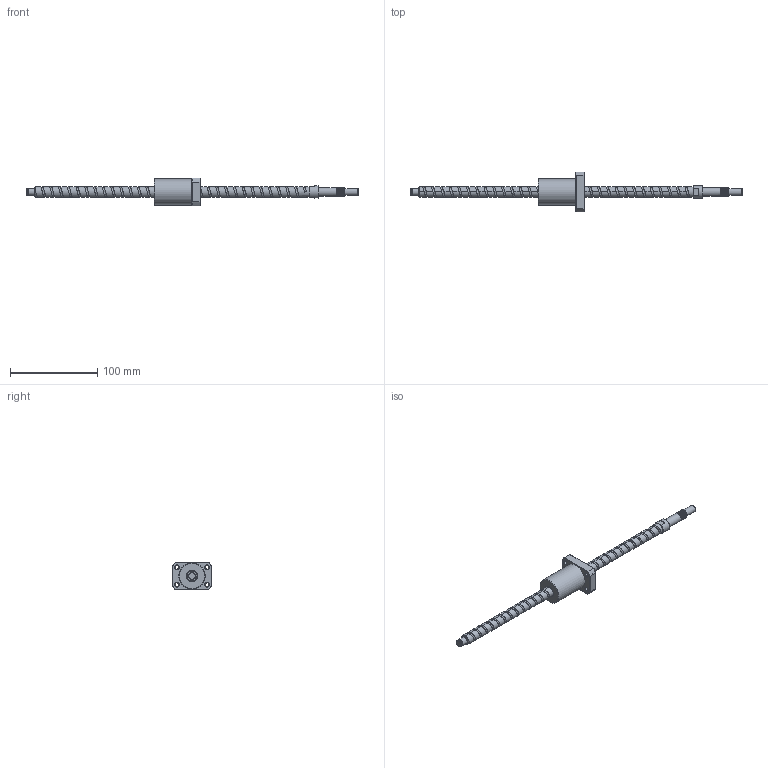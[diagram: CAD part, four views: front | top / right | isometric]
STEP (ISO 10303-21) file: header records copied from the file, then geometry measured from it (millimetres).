
FILE_DESCRIPTION (( 'STEP AP203' ), '1' );
FILE_NAME ('XSVR01210B1DGC5-380-P1.step', '2024-06-03T03:44:18', ( '' ), ( '' ), 'SwSTEP 2.0', 'SolidWorks 2022', '' );
FILE_SCHEMA (( 'CONFIG_CONTROL_DESIGN' ));
Length unit declared in the file: millimetre
Products named in the file (1): XSVR01210B1DGC5-380-P1
Bounding box: 380 x 45 x 32 mm (x, y, z)
Volume: 74367.7 mm3; surface area: 25936.1 mm2
Topology: 2 solids, 2 shells, 154 faces, 401 edges, 255 vertices
Faces by surface type: cylinder 71, plane 38, bspline 22, cone 14, torus 9
Full cylindrical faces by diameter (mm): 3.998 x1, 4 x2, 4.5 x4, 7.6 x1, 8 x7, 10 x10, 12 x31, 13.5 x1, 14 x1, 30 x1
Entity records: 18057 total; most frequent: CARTESIAN_POINT 15770, ORIENTED_EDGE 464, DIRECTION 394, EDGE_CURVE 232, AXIS2_PLACEMENT_3D 172, EDGE_LOOP 164, VERTEX_POINT 160, FACE_OUTER_BOUND 133
